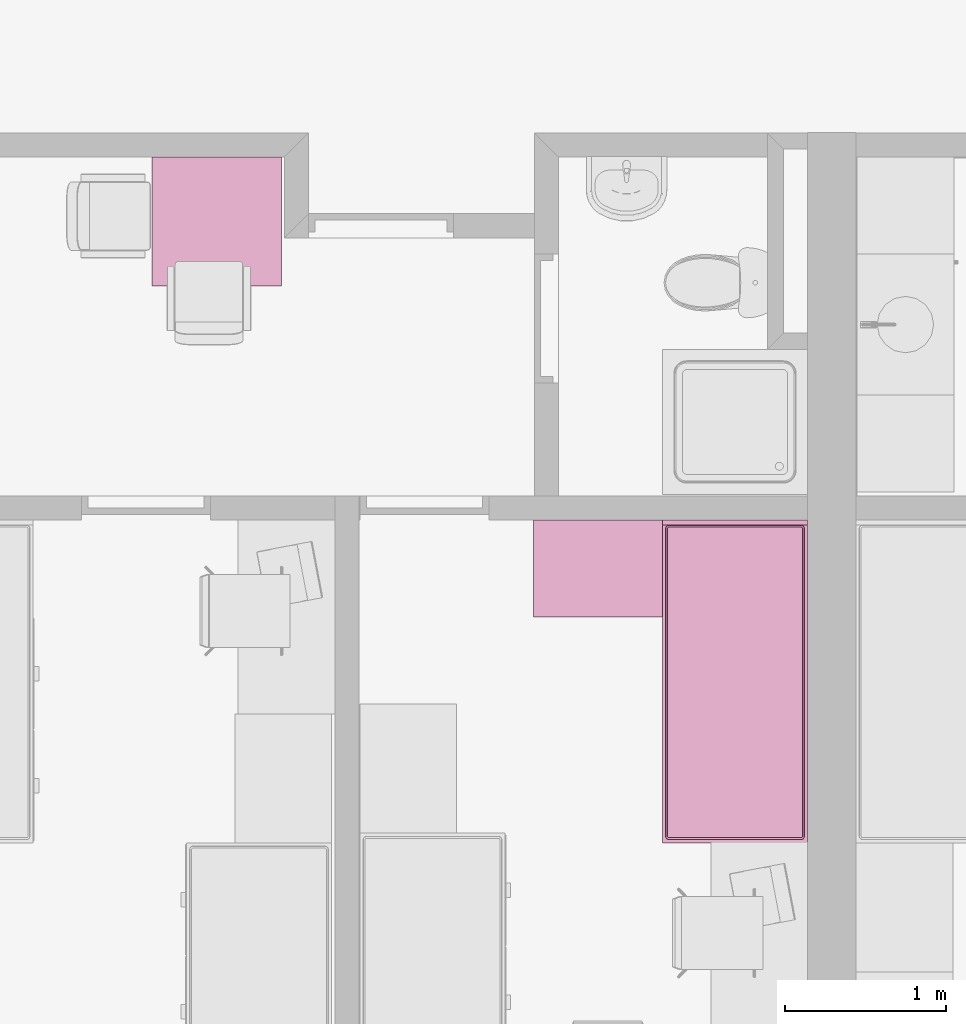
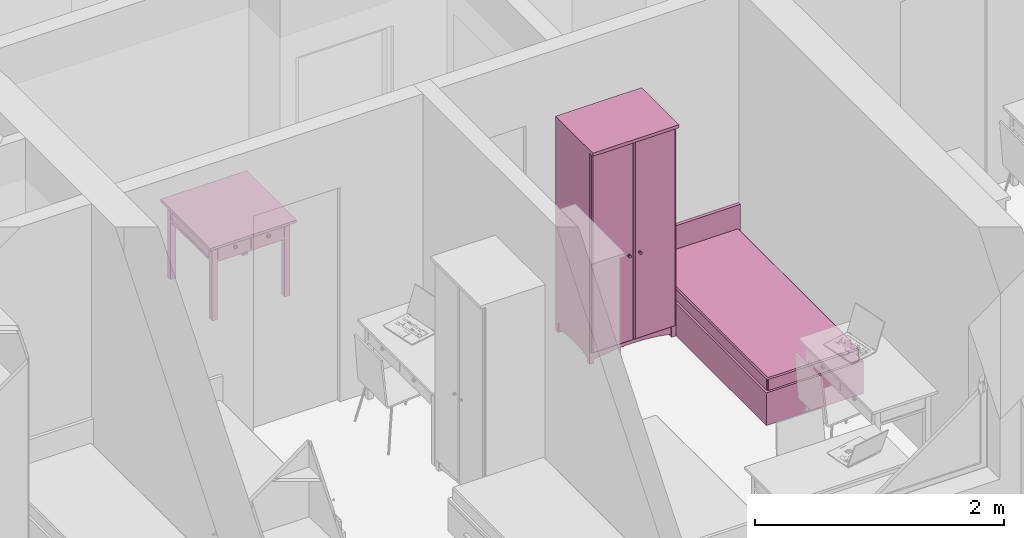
# One storey, part 101 of 172: 3 furnishings.
"""IFC2X3 building model written with IfcOpenShell, lengths in millimetres."""

from ifc_helpers import new_model, entity, si_unit, converted_unit, money_unit, direction, frame, origin_with_axes, place, context, subcontext, project, spatial, faceted_brep, source, transform, mapped, material, material_list, type_object, element, save


model = new_model("IFC2X3")

# Units and contexts
model_context = context("Model", 3, precision=1e-05, world=origin_with_axes(), true_north=direction((0.0, 1.0)))
body_context = subcontext(model_context, "Body", "Model", "MODEL_VIEW")
ifc_project = project(units=[si_unit("LENGTHUNIT", "METRE", prefix="MILLI"), si_unit("AREAUNIT", "SQUARE_METRE"), si_unit("VOLUMEUNIT", "CUBIC_METRE"), converted_unit("PLANEANGLEUNIT", "DEGREE", entity("IfcPlaneAngleMeasure", 0.0174532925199), si_unit("PLANEANGLEUNIT", "RADIAN"), dimensions=[0, 0, 0, 0, 0, 0, 0]), si_unit("SOLIDANGLEUNIT", "STERADIAN"), money_unit("USD"), converted_unit("TIMEUNIT", "Year", entity("IfcTimeMeasure", 31556926.0), si_unit("TIMEUNIT", "SECOND"), dimensions=[0, 0, 0, 0, 0, 0, 0]), si_unit("MASSUNIT", "GRAM"), si_unit("THERMODYNAMICTEMPERATUREUNIT", "DEGREE_CELSIUS"), si_unit("LUMINOUSINTENSITYUNIT", "LUMEN")], contexts=[model_context])

# Site, building, storey
site_placement = place(None, origin_with_axes())
site = spatial("IfcSite", under=ifc_project, at=site_placement, Name="Site", CompositionType="ELEMENT")
building_placement = place(site_placement, origin_with_axes())
building = spatial("IfcBuilding", under=site, at=building_placement, Name="Building", CompositionType="ELEMENT")
storey_placement = place(building_placement, frame((0.0, 0.0, 3200.0), z_axis=(0.0, 0.0, 1.0), x_axis=(1.0, 0.0, 0.0)))
storey = spatial("IfcBuildingStorey", under=building, at=storey_placement, Name="3KORRUS", CompositionType="ELEMENT", Elevation=3200.0)

# Furnishings
ifc_material = material(Name="Background")
ifc_material_list = material_list([ifc_material])
furnishing_element_type_1 = type_object("IfcFurnishingElementType", Name="Bed 19")
shared_shape_1 = source(origin_with_axes(), body_context, "Body", "Brep", [
    faceted_brep([(900.0, 1970.0, 0.0), (0.0, 1970.0, 0.0), (0.0, 2000.0, 0.0), (900.0, 2000.0, 0.0), (900.0, 1970.0, 660.0), (0.0, 1970.0, 660.0), (0.0, 2000.0, 660.0), (900.0, 2000.0, 660.0)], [[[0, 1, 2, 3]], [[1, 0, 4, 5]], [[2, 1, 5, 6]], [[3, 2, 6, 7]], [[0, 3, 7, 4]], [[5, 4, 7, 6]]]),
    faceted_brep([(900.0, 0.0, 0.0), (0.0, 0.0, 0.0), (0.0, 1970.0, 0.0), (900.0, 1970.0, 0.0), (900.0, 0.0, 320.0), (0.0, 0.0, 320.0), (0.0, 1970.0, 320.0), (900.0, 1970.0, 320.0)], [[[0, 1, 2, 3]], [[1, 0, 4, 5]], [[2, 1, 5, 6]], [[3, 2, 6, 7]], [[0, 3, 7, 4]], [[5, 4, 7, 6]]]),
    faceted_brep([(905.0, 10.0, 30.0), (900.0, 10.0, 30.0), (900.0, 695.0, 30.0), (905.0, 695.0, 30.0), (905.0, 10.0, 290.0), (900.0, 10.0, 290.0), (900.0, 695.0, 290.0), (905.0, 695.0, 290.0)], [[[0, 1, 2, 3]], [[1, 0, 4, 5]], [[2, 1, 5, 6]], [[3, 2, 6, 7]], [[0, 3, 7, 4]], [[5, 4, 7, 6]]]),
    faceted_brep([(935.0, 307.5, 150.0), (905.0, 307.5, 150.0), (905.0, 397.5, 150.0), (935.0, 397.5, 150.0), (935.0, 307.5, 170.0), (905.0, 307.5, 170.0), (905.0, 397.5, 170.0), (935.0, 397.5, 170.0)], [[[0, 1, 2, 3]], [[1, 0, 4, 5]], [[2, 1, 5, 6]], [[3, 2, 6, 7]], [[0, 3, 7, 4]], [[5, 4, 7, 6]]]),
    faceted_brep([(905.0, 705.0, 30.0), (900.0, 705.0, 30.0), (900.0, 1390.0, 30.0), (905.0, 1390.0, 30.0), (905.0, 705.0, 290.0), (900.0, 705.0, 290.0), (900.0, 1390.0, 290.0), (905.0, 1390.0, 290.0)], [[[0, 1, 2, 3]], [[1, 0, 4, 5]], [[2, 1, 5, 6]], [[3, 2, 6, 7]], [[0, 3, 7, 4]], [[5, 4, 7, 6]]]),
    faceted_brep([(935.0, 1002.5, 150.0), (905.0, 1002.5, 150.0), (905.0, 1092.5, 150.0), (935.0, 1092.5, 150.0), (935.0, 1002.5, 170.0), (905.0, 1002.5, 170.0), (905.0, 1092.5, 170.0), (935.0, 1092.5, 170.0)], [[[0, 1, 2, 3]], [[1, 0, 4, 5]], [[2, 1, 5, 6]], [[3, 2, 6, 7]], [[0, 3, 7, 4]], [[5, 4, 7, 6]]]),
    faceted_brep([(20.0, 40.0, 350.0), (20.0, 1950.0, 350.0), (21.522, 1957.654, 350.0), (25.858, 1964.142, 350.0), (32.346, 1968.478, 350.0), (40.0, 1970.0, 350.0), (860.0, 1970.0, 350.0), (867.654, 1968.478, 350.0), (874.142, 1964.142, 350.0), (878.478, 1957.654, 350.0), (880.0, 1950.0, 350.0), (880.0, 40.0, 350.0), (878.478, 32.346, 350.0), (874.142, 25.858, 350.0), (867.654, 21.522, 350.0), (860.0, 20.0, 350.0), (40.0, 20.0, 350.0), (32.346, 21.522, 350.0), (25.858, 25.858, 350.0), (21.522, 32.346, 350.0), (20.0, 40.0, 420.0), (20.0, 1950.0, 420.0), (21.522, 1957.654, 420.0), (25.858, 1964.142, 420.0), (32.346, 1968.478, 420.0), (40.0, 1970.0, 420.0), (860.0, 1970.0, 420.0), (867.654, 1968.478, 420.0), (874.142, 1964.142, 420.0), (878.478, 1957.654, 420.0), (880.0, 1950.0, 420.0), (880.0, 40.0, 420.0), (878.478, 32.346, 420.0), (874.142, 25.858, 420.0), (867.654, 21.522, 420.0), (860.0, 20.0, 420.0), (40.0, 20.0, 420.0), (32.346, 21.522, 420.0), (25.858, 25.858, 420.0), (21.522, 32.346, 420.0), (21.522, 40.15, 427.654), (21.522, 1949.85, 427.654), (22.956, 1957.06, 427.654), (26.955, 1963.045, 427.654), (32.94, 1967.044, 427.654), (40.15, 1968.478, 427.654), (859.85, 1968.478, 427.654), (867.06, 1967.044, 427.654), (873.045, 1963.045, 427.654), (877.044, 1957.06, 427.654), (878.478, 1949.85, 427.654), (878.478, 40.15, 427.654), (877.044, 32.94, 427.654), (873.045, 26.955, 427.654), (867.06, 22.956, 427.654), (859.85, 21.522, 427.654), (40.15, 21.522, 427.654), (32.94, 22.956, 427.654), (26.955, 26.955, 427.654), (22.956, 32.94, 427.654), (32.346, 41.216, 438.478), (32.346, 1948.784, 438.478), (33.152, 1952.836, 438.478), (34.759, 1955.241, 438.478), (37.164, 1956.848, 438.478), (41.216, 1957.654, 438.478), (858.784, 1957.654, 438.478), (862.836, 1956.848, 438.478), (865.241, 1955.241, 438.478), (866.848, 1952.836, 438.478), (867.654, 1948.784, 438.478), (867.654, 41.216, 438.478), (866.848, 37.164, 438.478), (865.241, 34.759, 438.478), (862.836, 33.152, 438.478), (858.784, 32.346, 438.478), (41.216, 32.346, 438.478), (37.164, 33.152, 438.478), (34.759, 34.759, 438.478), (33.152, 37.164, 438.478), (40.0, 41.97, 440.0), (40.0, 1948.03, 440.0), (40.327, 1949.673, 440.0), (40.0, 1950.0, 439.924), (41.97, 1950.0, 440.0), (858.03, 1950.0, 440.0), (859.673, 1949.673, 440.0), (860.0, 1950.0, 439.924), (860.0, 1948.03, 440.0), (860.0, 41.97, 440.0), (859.673, 40.327, 440.0), (860.0, 40.0, 439.924), (858.03, 40.0, 440.0), (41.97, 40.0, 440.0), (40.327, 40.327, 440.0), (40.0, 40.0, 439.924)], [[[0, 1, 2, 3, 4, 5, 6, 7, 8, 9, 10, 11, 12, 13, 14, 15, 16, 17, 18, 19]], [[1, 0, 20, 21]], [[2, 1, 21, 22]], [[3, 2, 22, 23]], [[4, 3, 23, 24]], [[5, 4, 24, 25]], [[6, 5, 25, 26]], [[7, 6, 26, 27]], [[8, 7, 27, 28]], [[9, 8, 28, 29]], [[10, 9, 29, 30]], [[11, 10, 30, 31]], [[12, 11, 31, 32]], [[13, 12, 32, 33]], [[14, 13, 33, 34]], [[15, 14, 34, 35]], [[16, 15, 35, 36]], [[17, 16, 36, 37]], [[18, 17, 37, 38]], [[19, 18, 38, 39]], [[0, 19, 39, 20]], [[21, 20, 40, 41]], [[22, 21, 41, 42]], [[23, 22, 42, 43]], [[24, 23, 43, 44]], [[25, 24, 44, 45]], [[26, 25, 45, 46]], [[27, 26, 46, 47]], [[28, 27, 47, 48]], [[29, 28, 48, 49]], [[30, 29, 49, 50]], [[31, 30, 50, 51]], [[32, 31, 51, 52]], [[33, 32, 52, 53]], [[34, 33, 53, 54]], [[35, 34, 54, 55]], [[36, 35, 55, 56]], [[37, 36, 56, 57]], [[38, 37, 57, 58]], [[39, 38, 58, 59]], [[20, 39, 59, 40]], [[41, 40, 60, 61]], [[42, 41, 61, 62]], [[43, 42, 62, 63]], [[44, 43, 63, 64]], [[45, 44, 64, 65]], [[46, 45, 65, 66]], [[47, 46, 66, 67]], [[48, 47, 67, 68]], [[49, 48, 68, 69]], [[50, 49, 69, 70]], [[51, 50, 70, 71]], [[52, 51, 71, 72]], [[53, 52, 72, 73]], [[54, 53, 73, 74]], [[55, 54, 74, 75]], [[56, 55, 75, 76]], [[57, 56, 76, 77]], [[58, 57, 77, 78]], [[59, 58, 78, 79]], [[40, 59, 79, 60]], [[61, 60, 80, 81]], [[62, 61, 81, 82, 83]], [[63, 62, 83]], [[64, 63, 83]], [[65, 64, 83, 82, 84]], [[66, 65, 84, 85]], [[67, 66, 85, 86, 87]], [[68, 67, 87]], [[69, 68, 87]], [[70, 69, 87, 86, 88]], [[71, 70, 88, 89]], [[72, 71, 89, 90, 91]], [[73, 72, 91]], [[74, 73, 91]], [[75, 74, 91, 90, 92]], [[76, 75, 92, 93]], [[77, 76, 93, 94, 95]], [[78, 77, 95]], [[79, 78, 95]], [[60, 79, 95, 94, 80]], [[81, 80, 94, 93, 92, 90, 89, 88, 86, 85, 84, 82]]]),
    faceted_brep([(20.0, 40.0, 350.0), (21.522, 32.346, 350.0), (25.858, 25.858, 350.0), (32.346, 21.522, 350.0), (40.0, 20.0, 350.0), (860.0, 20.0, 350.0), (867.654, 21.522, 350.0), (874.142, 25.858, 350.0), (878.478, 32.346, 350.0), (880.0, 40.0, 350.0), (880.0, 1950.0, 350.0), (878.478, 1957.654, 350.0), (874.142, 1964.142, 350.0), (867.654, 1968.478, 350.0), (860.0, 1970.0, 350.0), (40.0, 1970.0, 350.0), (32.346, 1968.478, 350.0), (25.858, 1964.142, 350.0), (21.522, 1957.654, 350.0), (20.0, 1950.0, 350.0), (20.0, 40.0, 320.0), (21.522, 32.346, 320.0), (25.858, 25.858, 320.0), (32.346, 21.522, 320.0), (40.0, 20.0, 320.0), (860.0, 20.0, 320.0), (867.654, 21.522, 320.0), (874.142, 25.858, 320.0), (878.478, 32.346, 320.0), (880.0, 40.0, 320.0), (880.0, 1950.0, 320.0), (878.478, 1957.654, 320.0), (874.142, 1964.142, 320.0), (867.654, 1968.478, 320.0), (860.0, 1970.0, 320.0), (40.0, 1970.0, 320.0), (32.346, 1968.478, 320.0), (25.858, 1964.142, 320.0), (21.522, 1957.654, 320.0), (20.0, 1950.0, 320.0)], [[[0, 1, 2, 3, 4, 5, 6, 7, 8, 9, 10, 11, 12, 13, 14, 15, 16, 17, 18, 19]], [[0, 20, 21, 1]], [[1, 21, 22, 2]], [[2, 22, 23, 3]], [[3, 23, 24, 4]], [[4, 24, 25, 5]], [[5, 25, 26, 6]], [[6, 26, 27, 7]], [[7, 27, 28, 8]], [[8, 28, 29, 9]], [[9, 29, 30, 10]], [[10, 30, 31, 11]], [[11, 31, 32, 12]], [[12, 32, 33, 13]], [[13, 33, 34, 14]], [[14, 34, 35, 15]], [[15, 35, 36, 16]], [[16, 36, 37, 17]], [[17, 37, 38, 18]], [[18, 38, 39, 19]], [[19, 39, 20, 0]], [[20, 39, 38, 37, 36, 35, 34, 33, 32, 31, 30, 29, 28, 27, 26, 25, 24, 23, 22, 21]]]),
])
furnishing_1_placement = place(storey_placement, frame((-31190.2967033, -17439.2398994, 0.0), z_axis=(0.0, 0.0, 1.0), x_axis=(1.0, 0.0, 0.0)))
element("IfcFurnishingElement", 1, at=furnishing_1_placement, inside=storey, type_object=furnishing_element_type_1, material=ifc_material_list, Name="FU - 013", context=body_context, shape_type="MappedRepresentation", body=[
    mapped(shared_shape_1, transform((0.0, 0.0, 0.0))),
])
furnishing_element_type_2 = type_object("IfcFurnishingElementType", Name="Cupboard 19")
shared_shape_2 = source(origin_with_axes(), body_context, "Body", "Brep", [
    faceted_brep([(780.0, 600.0, 120.0), (780.0, 600.0, 2050.0), (780.0, 580.0, 2050.0), (780.0, 580.0, 120.0), (20.0, 600.0, 120.0), (20.0, 600.0, 2050.0), (20.0, 580.0, 2050.0), (20.0, 580.0, 120.0)], [[[0, 1, 2, 3]], [[4, 5, 1, 0]], [[1, 5, 6, 2]], [[3, 2, 6, 7]], [[0, 3, 7, 4]], [[7, 6, 5, 4]]]),
    faceted_brep([(0.0, 50.0, 100.0), (0.0, 600.0, 100.0), (20.0, 600.0, 100.0), (20.0, 50.0, 100.0), (0.0, 50.0, 2070.0), (0.0, 600.0, 2070.0), (20.0, 600.0, 2070.0), (20.0, 50.0, 2070.0)], [[[0, 1, 2, 3]], [[0, 4, 5, 1]], [[1, 5, 6, 2]], [[2, 6, 7, 3]], [[3, 7, 4, 0]], [[7, 6, 5, 4]]]),
    faceted_brep([(780.0, 50.0, 100.0), (780.0, 600.0, 100.0), (800.0, 600.0, 100.0), (800.0, 50.0, 100.0), (780.0, 50.0, 2070.0), (780.0, 600.0, 2070.0), (800.0, 600.0, 2070.0), (800.0, 50.0, 2070.0)], [[[0, 1, 2, 3]], [[0, 4, 5, 1]], [[1, 5, 6, 2]], [[2, 6, 7, 3]], [[3, 7, 4, 0]], [[7, 6, 5, 4]]]),
    faceted_brep([(20.0, 50.0, 100.0), (20.0, 600.0, 100.0), (780.0, 600.0, 100.0), (780.0, 50.0, 100.0), (20.0, 50.0, 120.0), (20.0, 600.0, 120.0), (780.0, 600.0, 120.0), (780.0, 50.0, 120.0)], [[[0, 1, 2, 3]], [[0, 4, 5, 1]], [[1, 5, 6, 2]], [[2, 6, 7, 3]], [[3, 7, 4, 0]], [[7, 6, 5, 4]]]),
    faceted_brep([(20.0, 50.0, 2050.0), (20.0, 600.0, 2050.0), (780.0, 600.0, 2050.0), (780.0, 50.0, 2050.0), (20.0, 50.0, 2070.0), (20.0, 600.0, 2070.0), (780.0, 600.0, 2070.0), (780.0, 50.0, 2070.0)], [[[0, 1, 2, 3]], [[0, 4, 5, 1]], [[1, 5, 6, 2]], [[2, 6, 7, 3]], [[3, 7, 4, 0]], [[7, 6, 5, 4]]]),
    faceted_brep([(0.0, 600.0, 2070.0), (0.0, 0.0, 2070.0), (0.0, 0.0, 2100.0), (0.0, 600.0, 2100.0), (800.0, 600.0, 2070.0), (800.0, 0.0, 2070.0), (800.0, 0.0, 2100.0), (800.0, 600.0, 2100.0)], [[[0, 1, 2, 3]], [[0, 4, 5, 1]], [[1, 5, 6, 2]], [[3, 2, 6, 7]], [[4, 0, 3, 7]], [[5, 4, 7, 6]]]),
    faceted_brep([(760.0, 590.0, 25.0), (760.0, 570.0, 25.0), (640.962, 570.0, 45.8), (640.962, 590.0, 45.8), (760.0, 590.0, 100.0), (760.0, 570.0, 100.0), (40.0, 570.0, 100.0), (40.0, 570.0, 25.0), (159.038, 570.0, 45.8), (279.23, 570.0, 58.32), (400.0, 570.0, 62.5), (520.77, 570.0, 58.32), (520.77, 590.0, 58.32), (400.0, 590.0, 62.5), (279.23, 590.0, 58.32), (159.038, 590.0, 45.8), (40.0, 590.0, 25.0), (40.0, 590.0, 100.0)], [[[0, 1, 2, 3]], [[4, 5, 1, 0]], [[1, 5, 6, 7, 8, 9, 10, 11, 2]], [[3, 2, 11, 12]], [[0, 3, 12, 13, 14, 15, 16, 17, 4]], [[17, 6, 5, 4]], [[16, 7, 6, 17]], [[15, 8, 7, 16]], [[14, 9, 8, 15]], [[13, 10, 9, 14]], [[12, 11, 10, 13]]]),
    faceted_brep([(760.0, 80.0, 25.0), (760.0, 60.0, 25.0), (640.962, 60.0, 45.8), (640.962, 80.0, 45.8), (760.0, 80.0, 100.0), (760.0, 60.0, 100.0), (40.0, 60.0, 100.0), (40.0, 60.0, 25.0), (159.038, 60.0, 45.8), (279.23, 60.0, 58.32), (400.0, 60.0, 62.5), (520.77, 60.0, 58.32), (520.77, 80.0, 58.32), (400.0, 80.0, 62.5), (279.23, 80.0, 58.32), (159.038, 80.0, 45.8), (40.0, 80.0, 25.0), (40.0, 80.0, 100.0)], [[[0, 1, 2, 3]], [[4, 5, 1, 0]], [[1, 5, 6, 7, 8, 9, 10, 11, 2]], [[3, 2, 11, 12]], [[0, 3, 12, 13, 14, 15, 16, 17, 4]], [[17, 6, 5, 4]], [[16, 7, 6, 17]], [[15, 8, 7, 16]], [[14, 9, 8, 15]], [[13, 10, 9, 14]], [[12, 11, 10, 13]]]),
    faceted_brep([(790.0, 90.0, 25.0), (770.0, 90.0, 25.0), (770.0, 141.266, 38.072), (790.0, 141.266, 38.072), (790.0, 90.0, 100.0), (770.0, 90.0, 100.0), (770.0, 560.0, 100.0), (770.0, 560.0, 25.0), (770.0, 508.734, 38.072), (770.0, 456.752, 47.92), (770.0, 404.257, 54.508), (770.0, 351.453, 57.808), (770.0, 298.547, 57.808), (770.0, 245.743, 54.508), (770.0, 193.248, 47.92), (790.0, 193.248, 47.92), (790.0, 245.743, 54.508), (790.0, 298.547, 57.808), (790.0, 351.453, 57.808), (790.0, 404.257, 54.508), (790.0, 456.752, 47.92), (790.0, 508.734, 38.072), (790.0, 560.0, 25.0), (790.0, 560.0, 100.0)], [[[0, 1, 2, 3]], [[4, 5, 1, 0]], [[1, 5, 6, 7, 8, 9, 10, 11, 12, 13, 14, 2]], [[3, 2, 14, 15]], [[0, 3, 15, 16, 17, 18, 19, 20, 21, 22, 23, 4]], [[23, 6, 5, 4]], [[22, 7, 6, 23]], [[21, 8, 7, 22]], [[20, 9, 8, 21]], [[19, 10, 9, 20]], [[18, 11, 10, 19]], [[17, 12, 11, 18]], [[16, 13, 12, 17]], [[15, 14, 13, 16]]]),
    faceted_brep([(30.0, 90.0, 25.0), (10.0, 90.0, 25.0), (10.0, 141.266, 38.072), (30.0, 141.266, 38.072), (30.0, 90.0, 100.0), (10.0, 90.0, 100.0), (10.0, 560.0, 100.0), (10.0, 560.0, 25.0), (10.0, 508.734, 38.072), (10.0, 456.752, 47.92), (10.0, 404.257, 54.508), (10.0, 351.453, 57.808), (10.0, 298.547, 57.808), (10.0, 245.743, 54.508), (10.0, 193.248, 47.92), (30.0, 193.248, 47.92), (30.0, 245.743, 54.508), (30.0, 298.547, 57.808), (30.0, 351.453, 57.808), (30.0, 404.257, 54.508), (30.0, 456.752, 47.92), (30.0, 508.734, 38.072), (30.0, 560.0, 25.0), (30.0, 560.0, 100.0)], [[[0, 1, 2, 3]], [[4, 5, 1, 0]], [[1, 5, 6, 7, 8, 9, 10, 11, 12, 13, 14, 2]], [[3, 2, 14, 15]], [[0, 3, 15, 16, 17, 18, 19, 20, 21, 22, 23, 4]], [[23, 6, 5, 4]], [[22, 7, 6, 23]], [[21, 8, 7, 22]], [[20, 9, 8, 21]], [[19, 10, 9, 20]], [[18, 11, 10, 19]], [[17, 12, 11, 18]], [[16, 13, 12, 17]], [[15, 14, 13, 16]]]),
    faceted_brep([(760.0, 560.0, 0.0), (760.0, 560.0, 100.0), (760.0, 600.0, 100.0), (760.0, 600.0, 0.0), (800.0, 560.0, 0.0), (800.0, 560.0, 100.0), (800.0, 600.0, 100.0), (800.0, 600.0, 0.0)], [[[0, 1, 2, 3]], [[4, 5, 1, 0]], [[1, 5, 6, 2]], [[3, 2, 6, 7]], [[0, 3, 7, 4]], [[7, 6, 5, 4]]]),
    faceted_brep([(0.0, 560.0, 0.0), (0.0, 560.0, 100.0), (0.0, 600.0, 100.0), (0.0, 600.0, 0.0), (40.0, 560.0, 0.0), (40.0, 560.0, 100.0), (40.0, 600.0, 100.0), (40.0, 600.0, 0.0)], [[[0, 1, 2, 3]], [[4, 5, 1, 0]], [[1, 5, 6, 2]], [[3, 2, 6, 7]], [[0, 3, 7, 4]], [[7, 6, 5, 4]]]),
    faceted_brep([(760.0, 50.0, 0.0), (760.0, 50.0, 100.0), (760.0, 90.0, 100.0), (760.0, 90.0, 0.0), (800.0, 50.0, 0.0), (800.0, 50.0, 100.0), (800.0, 90.0, 100.0), (800.0, 90.0, 0.0)], [[[0, 1, 2, 3]], [[4, 5, 1, 0]], [[1, 5, 6, 2]], [[3, 2, 6, 7]], [[0, 3, 7, 4]], [[7, 6, 5, 4]]]),
    faceted_brep([(0.0, 50.0, 0.0), (0.0, 50.0, 100.0), (0.0, 90.0, 100.0), (0.0, 90.0, 0.0), (40.0, 50.0, 0.0), (40.0, 50.0, 100.0), (40.0, 90.0, 100.0), (40.0, 90.0, 0.0)], [[[0, 1, 2, 3]], [[4, 5, 1, 0]], [[1, 5, 6, 2]], [[3, 2, 6, 7]], [[0, 3, 7, 4]], [[7, 6, 5, 4]]]),
    faceted_brep([(780.0, 580.0, 587.5), (780.0, 580.0, 607.5), (780.0, 50.0, 607.5), (780.0, 50.0, 587.5), (20.0, 580.0, 587.5), (20.0, 580.0, 607.5), (20.0, 50.0, 607.5), (20.0, 50.0, 587.5)], [[[0, 1, 2, 3]], [[4, 5, 1, 0]], [[1, 5, 6, 2]], [[3, 2, 6, 7]], [[0, 3, 7, 4]], [[7, 6, 5, 4]]]),
    faceted_brep([(780.0, 580.0, 1075.0), (780.0, 580.0, 1095.0), (780.0, 50.0, 1095.0), (780.0, 50.0, 1075.0), (20.0, 580.0, 1075.0), (20.0, 580.0, 1095.0), (20.0, 50.0, 1095.0), (20.0, 50.0, 1075.0)], [[[0, 1, 2, 3]], [[4, 5, 1, 0]], [[1, 5, 6, 2]], [[3, 2, 6, 7]], [[0, 3, 7, 4]], [[7, 6, 5, 4]]]),
    faceted_brep([(780.0, 580.0, 1562.5), (780.0, 580.0, 1582.5), (780.0, 50.0, 1582.5), (780.0, 50.0, 1562.5), (20.0, 580.0, 1562.5), (20.0, 580.0, 1582.5), (20.0, 50.0, 1582.5), (20.0, 50.0, 1562.5)], [[[0, 1, 2, 3]], [[4, 5, 1, 0]], [[1, 5, 6, 2]], [[3, 2, 6, 7]], [[0, 3, 7, 4]], [[7, 6, 5, 4]]]),
    faceted_brep([(789.5, 50.0, 110.5), (400.5, 50.0, 110.5), (400.5, 50.0, 2059.5), (789.5, 50.0, 2059.5), (789.5, 40.0, 110.5), (400.5, 40.0, 110.5), (400.5, 40.0, 2059.5), (789.5, 40.0, 2059.5), (779.5, 30.0, 120.5), (410.5, 30.0, 120.5), (410.5, 30.0, 2049.5), (779.5, 30.0, 2049.5)], [[[0, 1, 2, 3]], [[0, 4, 5, 1]], [[1, 5, 6, 2]], [[2, 6, 7, 3]], [[3, 7, 4, 0]], [[4, 8, 9, 5]], [[5, 9, 10, 6]], [[6, 10, 11, 7]], [[7, 11, 8, 4]], [[10, 9, 8, 11]]]),
    faceted_brep([(399.5, 50.0, 110.5), (10.5, 50.0, 110.5), (10.5, 50.0, 2059.5), (399.5, 50.0, 2059.5), (399.5, 40.0, 110.5), (10.5, 40.0, 110.5), (10.5, 40.0, 2059.5), (399.5, 40.0, 2059.5), (389.5, 30.0, 120.5), (20.5, 30.0, 120.5), (20.5, 30.0, 2049.5), (389.5, 30.0, 2049.5)], [[[0, 1, 2, 3]], [[0, 4, 5, 1]], [[1, 5, 6, 2]], [[2, 6, 7, 3]], [[3, 7, 4, 0]], [[4, 8, 9, 5]], [[5, 9, 10, 6]], [[6, 10, 11, 7]], [[7, 11, 8, 4]], [[10, 9, 8, 11]]]),
    faceted_brep([(339.608, 30.0, 954.0), (338.0, 30.0, 960.0), (339.608, 30.0, 966.0), (344.0, 30.0, 970.392), (350.0, 30.0, 972.0), (356.0, 30.0, 970.392), (360.392, 30.0, 966.0), (362.0, 30.0, 960.0), (360.392, 30.0, 954.0), (356.0, 30.0, 949.608), (350.0, 30.0, 948.0), (344.0, 30.0, 949.608), (339.608, 5.0, 954.0), (338.0, 5.0, 960.0), (339.608, 5.0, 966.0), (344.0, 5.0, 970.392), (350.0, 5.0, 972.0), (356.0, 5.0, 970.392), (360.392, 5.0, 966.0), (362.0, 5.0, 960.0), (360.392, 5.0, 954.0), (356.0, 5.0, 949.608), (350.0, 5.0, 948.0), (344.0, 5.0, 949.608)], [[[0, 1, 2, 3, 4, 5, 6, 7, 8, 9, 10, 11]], [[0, 12, 13, 1]], [[1, 13, 14, 2]], [[2, 14, 15, 3]], [[3, 15, 16, 4]], [[4, 16, 17, 5]], [[5, 17, 18, 6]], [[6, 18, 19, 7]], [[7, 19, 20, 8]], [[8, 20, 21, 9]], [[9, 21, 22, 10]], [[10, 22, 23, 11]], [[11, 23, 12, 0]], [[12, 23, 22, 21, 20, 19, 18, 17, 16, 15, 14, 13]]]),
    faceted_brep([(460.392, 30.0, 954.0), (456.0, 30.0, 949.608), (450.0, 30.0, 948.0), (444.0, 30.0, 949.608), (439.608, 30.0, 954.0), (438.0, 30.0, 960.0), (439.608, 30.0, 966.0), (444.0, 30.0, 970.392), (450.0, 30.0, 972.0), (456.0, 30.0, 970.392), (460.392, 30.0, 966.0), (462.0, 30.0, 960.0), (460.392, 5.0, 954.0), (456.0, 5.0, 949.608), (450.0, 5.0, 948.0), (444.0, 5.0, 949.608), (439.608, 5.0, 954.0), (438.0, 5.0, 960.0), (439.608, 5.0, 966.0), (444.0, 5.0, 970.392), (450.0, 5.0, 972.0), (456.0, 5.0, 970.392), (460.392, 5.0, 966.0), (462.0, 5.0, 960.0)], [[[0, 1, 2, 3, 4, 5, 6, 7, 8, 9, 10, 11]], [[1, 0, 12, 13]], [[2, 1, 13, 14]], [[3, 2, 14, 15]], [[4, 3, 15, 16]], [[5, 4, 16, 17]], [[6, 5, 17, 18]], [[7, 6, 18, 19]], [[8, 7, 19, 20]], [[9, 8, 20, 21]], [[10, 9, 21, 22]], [[11, 10, 22, 23]], [[0, 11, 23, 12]], [[12, 23, 22, 21, 20, 19, 18, 17, 16, 15, 14, 13]]]),
])
furnishing_2_placement = place(storey_placement, frame((-31990.2967033, -16039.2398994, 0.0), z_axis=(0.0, 0.0, 1.0), x_axis=(1.0, 0.0, 0.0)))
element("IfcFurnishingElement", 2, at=furnishing_2_placement, inside=storey, type_object=furnishing_element_type_2, material=ifc_material_list, Name="FU - 014", context=body_context, shape_type="MappedRepresentation", body=[
    mapped(shared_shape_2, transform((0.0, 0.0, 0.0))),
])
furnishing_element_type_3 = type_object("IfcFurnishingElementType", Name="Rectangular Table 01 19")
shared_shape_3 = source(origin_with_axes(), body_context, "Body", "Brep", [
    faceted_brep([(90.0, 40.0, 0.0), (40.0, 40.0, 0.0), (40.0, 90.0, 0.0), (90.0, 90.0, 0.0), (90.0, 40.0, 725.0), (40.0, 40.0, 725.0), (40.0, 90.0, 725.0), (90.0, 90.0, 725.0)], [[[0, 1, 2, 3]], [[1, 0, 4, 5]], [[2, 1, 5, 6]], [[3, 2, 6, 7]], [[0, 3, 7, 4]], [[5, 4, 7, 6]]]),
    faceted_brep([(760.0, 40.0, 0.0), (710.0, 40.0, 0.0), (710.0, 90.0, 0.0), (760.0, 90.0, 0.0), (760.0, 40.0, 725.0), (710.0, 40.0, 725.0), (710.0, 90.0, 725.0), (760.0, 90.0, 725.0)], [[[0, 1, 2, 3]], [[1, 0, 4, 5]], [[2, 1, 5, 6]], [[3, 2, 6, 7]], [[0, 3, 7, 4]], [[5, 4, 7, 6]]]),
    faceted_brep([(90.0, 710.0, 0.0), (40.0, 710.0, 0.0), (40.0, 760.0, 0.0), (90.0, 760.0, 0.0), (90.0, 710.0, 725.0), (40.0, 710.0, 725.0), (40.0, 760.0, 725.0), (90.0, 760.0, 725.0)], [[[0, 1, 2, 3]], [[1, 0, 4, 5]], [[2, 1, 5, 6]], [[3, 2, 6, 7]], [[0, 3, 7, 4]], [[5, 4, 7, 6]]]),
    faceted_brep([(760.0, 710.0, 0.0), (710.0, 710.0, 0.0), (710.0, 760.0, 0.0), (760.0, 760.0, 0.0), (760.0, 710.0, 725.0), (710.0, 710.0, 725.0), (710.0, 760.0, 725.0), (760.0, 760.0, 725.0)], [[[0, 1, 2, 3]], [[1, 0, 4, 5]], [[2, 1, 5, 6]], [[3, 2, 6, 7]], [[0, 3, 7, 4]], [[5, 4, 7, 6]]]),
    faceted_brep([(760.0, 40.0, 565.0), (40.0, 40.0, 565.0), (40.0, 760.0, 565.0), (760.0, 760.0, 565.0), (760.0, 40.0, 585.0), (40.0, 40.0, 585.0), (40.0, 760.0, 585.0), (760.0, 760.0, 585.0)], [[[0, 1, 2, 3]], [[1, 0, 4, 5]], [[2, 1, 5, 6]], [[3, 2, 6, 7]], [[0, 3, 7, 4]], [[5, 4, 7, 6]]]),
    faceted_brep([(710.0, 52.5, 585.0), (90.0, 52.5, 585.0), (90.0, 77.5, 585.0), (710.0, 77.5, 585.0), (710.0, 52.5, 745.0), (90.0, 52.5, 745.0), (90.0, 77.5, 745.0), (710.0, 77.5, 745.0)], [[[0, 1, 2, 3]], [[1, 0, 4, 5]], [[2, 1, 5, 6]], [[3, 2, 6, 7]], [[0, 3, 7, 4]], [[5, 4, 7, 6]]]),
    faceted_brep([(77.5, 90.0, 585.0), (52.5, 90.0, 585.0), (52.5, 710.0, 585.0), (77.5, 710.0, 585.0), (77.5, 90.0, 745.0), (52.5, 90.0, 745.0), (52.5, 710.0, 745.0), (77.5, 710.0, 745.0)], [[[0, 1, 2, 3]], [[1, 0, 4, 5]], [[2, 1, 5, 6]], [[3, 2, 6, 7]], [[0, 3, 7, 4]], [[5, 4, 7, 6]]]),
    faceted_brep([(90.0, 747.5, 585.0), (710.0, 747.5, 585.0), (710.0, 722.5, 585.0), (90.0, 722.5, 585.0), (90.0, 747.5, 745.0), (710.0, 747.5, 745.0), (710.0, 722.5, 745.0), (90.0, 722.5, 745.0)], [[[0, 1, 2, 3]], [[1, 0, 4, 5]], [[2, 1, 5, 6]], [[3, 2, 6, 7]], [[0, 3, 7, 4]], [[5, 4, 7, 6]]]),
    faceted_brep([(722.5, 710.0, 585.0), (747.5, 710.0, 585.0), (747.5, 90.0, 585.0), (722.5, 90.0, 585.0), (722.5, 710.0, 745.0), (747.5, 710.0, 745.0), (747.5, 90.0, 745.0), (722.5, 90.0, 745.0)], [[[0, 1, 2, 3]], [[1, 0, 4, 5]], [[2, 1, 5, 6]], [[3, 2, 6, 7]], [[0, 3, 7, 4]], [[5, 4, 7, 6]]]),
    faceted_brep([(397.5, 40.0, 585.0), (95.0, 40.0, 585.0), (95.0, 60.0, 585.0), (397.5, 60.0, 585.0), (397.5, 40.0, 745.0), (95.0, 40.0, 745.0), (95.0, 60.0, 745.0), (397.5, 60.0, 745.0)], [[[0, 1, 2, 3]], [[1, 0, 4, 5]], [[2, 1, 5, 6]], [[3, 2, 6, 7]], [[0, 3, 7, 4]], [[5, 4, 7, 6]]]),
    faceted_brep([(705.0, 40.0, 585.0), (402.5, 40.0, 585.0), (402.5, 60.0, 585.0), (705.0, 60.0, 585.0), (705.0, 40.0, 745.0), (402.5, 40.0, 745.0), (402.5, 60.0, 745.0), (705.0, 60.0, 745.0)], [[[0, 1, 2, 3]], [[1, 0, 4, 5]], [[2, 1, 5, 6]], [[3, 2, 6, 7]], [[0, 3, 7, 4]], [[5, 4, 7, 6]]]),
    faceted_brep([(254.91, 40.0, 660.0), (251.25, 40.0, 656.34), (246.25, 40.0, 655.0), (241.25, 40.0, 656.34), (237.59, 40.0, 660.0), (236.25, 40.0, 665.0), (237.59, 40.0, 670.0), (241.25, 40.0, 673.66), (246.25, 40.0, 675.0), (251.25, 40.0, 673.66), (254.91, 40.0, 670.0), (256.25, 40.0, 665.0), (254.91, 25.0, 660.0), (251.25, 25.0, 656.34), (246.25, 25.0, 655.0), (241.25, 25.0, 656.34), (237.59, 25.0, 660.0), (236.25, 25.0, 665.0), (237.59, 25.0, 670.0), (241.25, 25.0, 673.66), (246.25, 25.0, 675.0), (251.25, 25.0, 673.66), (254.91, 25.0, 670.0), (256.25, 25.0, 665.0)], [[[0, 1, 2, 3, 4, 5, 6, 7, 8, 9, 10, 11]], [[1, 0, 12, 13]], [[2, 1, 13, 14]], [[3, 2, 14, 15]], [[4, 3, 15, 16]], [[5, 4, 16, 17]], [[6, 5, 17, 18]], [[7, 6, 18, 19]], [[8, 7, 19, 20]], [[9, 8, 20, 21]], [[10, 9, 21, 22]], [[11, 10, 22, 23]], [[0, 11, 23, 12]], [[12, 23, 22, 21, 20, 19, 18, 17, 16, 15, 14, 13]]]),
    faceted_brep([(256.25, 12.01, 665.0), (246.25, 10.0, 665.0), (254.91, 12.01, 660.0), (254.91, 12.01, 670.0), (251.25, 12.01, 656.34), (263.571, 17.5, 665.0), (261.25, 17.5, 656.34), (251.25, 12.01, 673.66), (261.25, 17.5, 673.66), (246.25, 12.01, 655.0), (254.91, 17.5, 650.0), (266.25, 25.0, 665.0), (263.571, 25.0, 655.0), (246.25, 12.01, 675.0), (254.91, 17.5, 680.0), (263.571, 25.0, 675.0), (241.25, 12.01, 656.34), (246.25, 17.5, 647.679), (256.25, 25.0, 647.679), (246.25, 25.0, 645.0), (236.25, 25.0, 647.679), (228.929, 25.0, 655.0), (226.25, 25.0, 665.0), (228.929, 25.0, 675.0), (236.25, 25.0, 682.321), (246.25, 25.0, 685.0), (256.25, 25.0, 682.321), (241.25, 12.01, 673.66), (246.25, 17.5, 682.321), (237.59, 12.01, 660.0), (237.59, 17.5, 650.0), (231.25, 17.5, 656.34), (228.929, 17.5, 665.0), (231.25, 17.5, 673.66), (237.59, 17.5, 680.0), (237.59, 12.01, 670.0), (236.25, 12.01, 665.0)], [[[0, 1, 2]], [[3, 1, 0]], [[2, 1, 4]], [[5, 0, 2, 6]], [[7, 1, 3]], [[8, 3, 0, 5]], [[4, 1, 9]], [[6, 2, 4, 10]], [[11, 5, 6, 12]], [[13, 1, 7]], [[14, 7, 3, 8]], [[15, 8, 5, 11]], [[9, 1, 16]], [[10, 4, 9, 17]], [[12, 6, 10, 18]], [[12, 18, 19, 20, 21, 22, 23, 24, 25, 26, 15, 11]], [[27, 1, 13]], [[28, 13, 7, 14]], [[26, 14, 8, 15]], [[16, 1, 29]], [[17, 9, 16, 30]], [[18, 10, 17, 19]], [[19, 17, 30, 20]], [[20, 30, 31, 21]], [[21, 31, 32, 22]], [[22, 32, 33, 23]], [[23, 33, 34, 24]], [[24, 34, 28, 25]], [[25, 28, 14, 26]], [[35, 1, 27]], [[34, 27, 13, 28]], [[29, 1, 36]], [[30, 16, 29, 31]], [[31, 29, 36, 32]], [[32, 36, 35, 33]], [[33, 35, 27, 34]], [[36, 1, 35]]]),
    faceted_brep([(562.41, 40.0, 660.0), (558.75, 40.0, 656.34), (553.75, 40.0, 655.0), (548.75, 40.0, 656.34), (545.09, 40.0, 660.0), (543.75, 40.0, 665.0), (545.09, 40.0, 670.0), (548.75, 40.0, 673.66), (553.75, 40.0, 675.0), (558.75, 40.0, 673.66), (562.41, 40.0, 670.0), (563.75, 40.0, 665.0), (562.41, 25.0, 660.0), (558.75, 25.0, 656.34), (553.75, 25.0, 655.0), (548.75, 25.0, 656.34), (545.09, 25.0, 660.0), (543.75, 25.0, 665.0), (545.09, 25.0, 670.0), (548.75, 25.0, 673.66), (553.75, 25.0, 675.0), (558.75, 25.0, 673.66), (562.41, 25.0, 670.0), (563.75, 25.0, 665.0)], [[[0, 1, 2, 3, 4, 5, 6, 7, 8, 9, 10, 11]], [[1, 0, 12, 13]], [[2, 1, 13, 14]], [[3, 2, 14, 15]], [[4, 3, 15, 16]], [[5, 4, 16, 17]], [[6, 5, 17, 18]], [[7, 6, 18, 19]], [[8, 7, 19, 20]], [[9, 8, 20, 21]], [[10, 9, 21, 22]], [[11, 10, 22, 23]], [[0, 11, 23, 12]], [[12, 23, 22, 21, 20, 19, 18, 17, 16, 15, 14, 13]]]),
    faceted_brep([(563.75, 12.01, 665.0), (553.75, 10.0, 665.0), (562.41, 12.01, 660.0), (562.41, 12.01, 670.0), (558.75, 12.01, 656.34), (571.071, 17.5, 665.0), (568.75, 17.5, 656.34), (558.75, 12.01, 673.66), (568.75, 17.5, 673.66), (553.75, 12.01, 655.0), (562.41, 17.5, 650.0), (573.75, 25.0, 665.0), (571.071, 25.0, 655.0), (553.75, 12.01, 675.0), (562.41, 17.5, 680.0), (571.071, 25.0, 675.0), (548.75, 12.01, 656.34), (553.75, 17.5, 647.679), (563.75, 25.0, 647.679), (553.75, 25.0, 645.0), (543.75, 25.0, 647.679), (536.429, 25.0, 655.0), (533.75, 25.0, 665.0), (536.429, 25.0, 675.0), (543.75, 25.0, 682.321), (553.75, 25.0, 685.0), (563.75, 25.0, 682.321), (548.75, 12.01, 673.66), (553.75, 17.5, 682.321), (545.09, 12.01, 660.0), (545.09, 17.5, 650.0), (538.75, 17.5, 656.34), (536.429, 17.5, 665.0), (538.75, 17.5, 673.66), (545.09, 17.5, 680.0), (545.09, 12.01, 670.0), (543.75, 12.01, 665.0)], [[[0, 1, 2]], [[3, 1, 0]], [[2, 1, 4]], [[5, 0, 2, 6]], [[7, 1, 3]], [[8, 3, 0, 5]], [[4, 1, 9]], [[6, 2, 4, 10]], [[11, 5, 6, 12]], [[13, 1, 7]], [[14, 7, 3, 8]], [[15, 8, 5, 11]], [[9, 1, 16]], [[10, 4, 9, 17]], [[12, 6, 10, 18]], [[12, 18, 19, 20, 21, 22, 23, 24, 25, 26, 15, 11]], [[27, 1, 13]], [[28, 13, 7, 14]], [[26, 14, 8, 15]], [[16, 1, 29]], [[17, 9, 16, 30]], [[18, 10, 17, 19]], [[19, 17, 30, 20]], [[20, 30, 31, 21]], [[21, 31, 32, 22]], [[22, 32, 33, 23]], [[23, 33, 34, 24]], [[24, 34, 28, 25]], [[25, 28, 14, 26]], [[35, 1, 27]], [[34, 27, 13, 28]], [[29, 1, 36]], [[30, 16, 29, 31]], [[31, 29, 36, 32]], [[32, 36, 35, 33]], [[33, 35, 27, 34]], [[36, 1, 35]]]),
    faceted_brep([(800.0, 0.0, 725.0), (0.0, 0.0, 725.0), (0.0, 800.0, 725.0), (800.0, 800.0, 725.0), (800.0, 0.0, 750.0), (0.0, 0.0, 750.0), (0.0, 800.0, 750.0), (800.0, 800.0, 750.0)], [[[0, 1, 2, 3]], [[1, 0, 4, 5]], [[2, 1, 5, 6]], [[3, 2, 6, 7]], [[0, 3, 7, 4]], [[5, 4, 7, 6]]]),
])
furnishing_3_placement = place(storey_placement, frame((-34352.3432666, -13989.2398994, 0.0), z_axis=(0.0, 0.0, 1.0), x_axis=(1.0, 0.0, 0.0)))
element("IfcFurnishingElement", 3, at=furnishing_3_placement, inside=storey, type_object=furnishing_element_type_3, material=ifc_material_list, Name="FU - 011", context=body_context, shape_type="MappedRepresentation", body=[
    mapped(shared_shape_3, transform((0.0, 0.0, 0.0))),
])

save(model, "model.ifc")
